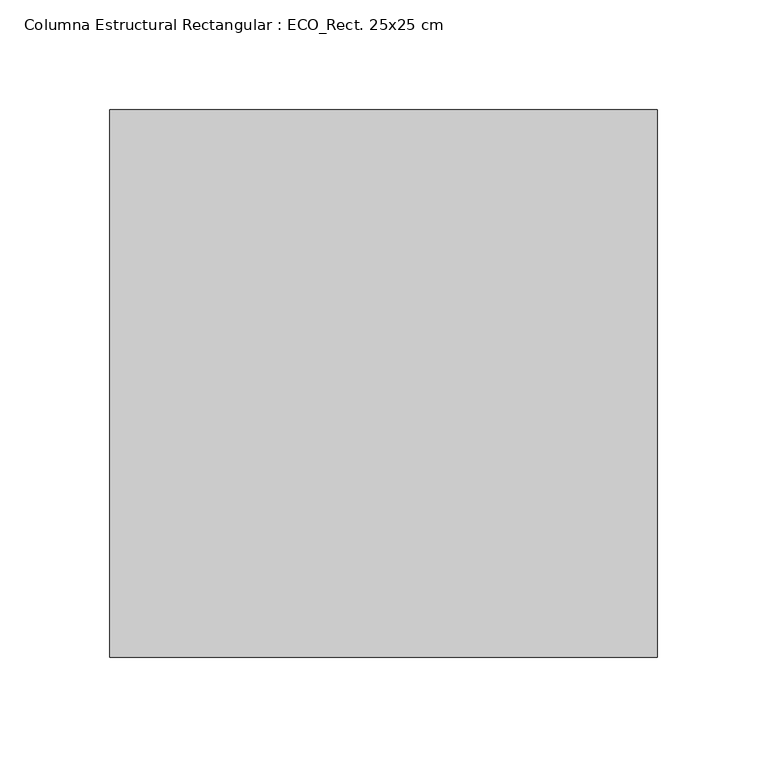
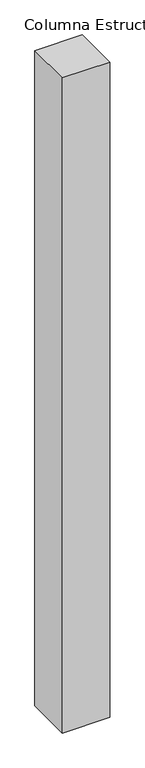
"""IFC4 building model written with IfcOpenShell, lengths in millimetres: column geometry, Columna Estructural Rectangular : ECO_Rect. 25x25 cm."""

from ifc_helpers import new_model, si_unit, frame, origin, place, context, project, spatial, polyline, outline, extrude, source, transform, mapped, element, save


def columna_estructural_rectangular_eco_rect_25x25_cm_3b833be7(model_context):
    return source(origin(), model_context, "Body", "SweptSolid", [
        extrude(outline(polyline([(125.0, 125.0), (125.0, -125.0), (-125.0, -125.0), (-125.0, 125.0), (125.0, 125.0)])), frame((0.0, 0.0, -900.0), z_axis=(0.0, 0.0, 1.0), x_axis=(1.0, 0.0, 0.0)), (0.0, 0.0, 1.0), 3650.0),
    ])


if __name__ == "__main__":
    model = new_model("IFC4")
    model_context = context("Model", 3, world=origin())
    ifc_project = project(units=[si_unit("LENGTHUNIT", "METRE", prefix="MILLI")], contexts=[model_context])
    site = spatial("IfcSite", under=ifc_project)
    building = spatial("IfcBuilding", under=site)
    placement = place(None, origin())
    columna_estructural_rectangular_eco_rect_25x25_cm_shape = columna_estructural_rectangular_eco_rect_25x25_cm_3b833be7(model_context)
    element("IfcColumn", 1, ObjectType="Columna Estructural Rectangular : ECO_Rect. 25x25 cm", at=placement, inside=building, context=model_context, shape_type="MappedRepresentation", body=[
        mapped(columna_estructural_rectangular_eco_rect_25x25_cm_shape, transform((0.0, 0.0, 0.0), x_axis=(1.0, 0.0, 0.0), y_axis=(0.0, 1.0, 0.0), z_axis=(0.0, 0.0, 1.0))),
    ])
    save(model, "model.ifc")
